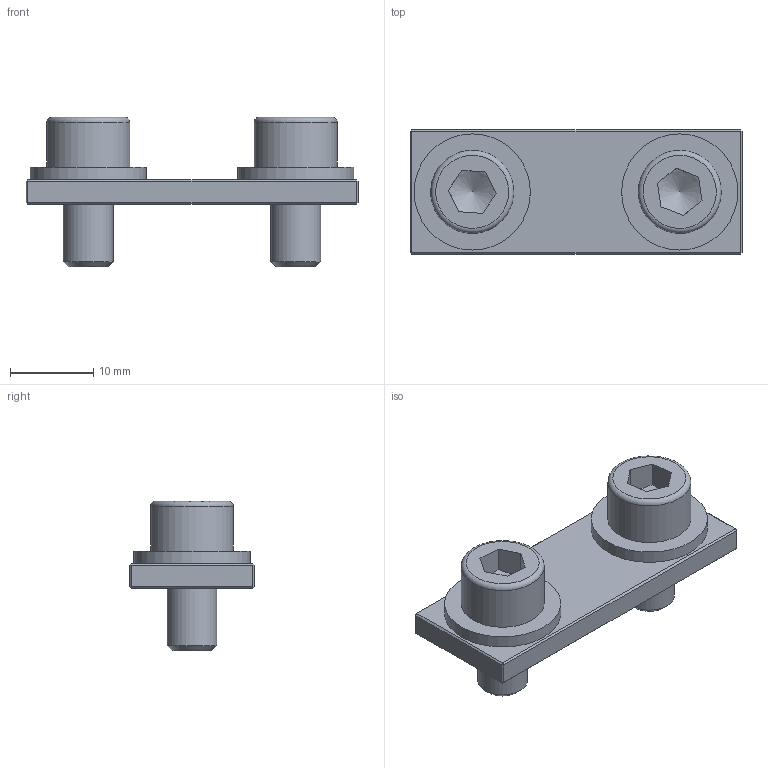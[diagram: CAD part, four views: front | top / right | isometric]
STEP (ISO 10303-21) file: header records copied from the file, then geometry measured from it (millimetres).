
FILE_DESCRIPTION((''),'2;1');
FILE_NAME('H:\3D-Entwürfe\Befestigungsteile\3D Modelle andere Formate\A\STEP\A16.stp','2010-03-02T12:31:55',('karin.hoppmann'),(''),'Autodesk Inventor 2009','Autodesk Inventor 2009','');
FILE_SCHEMA(('AUTOMOTIVE_DESIGN { 1 0 10303 214 1 1 1 1 }'));
Length unit declared in the file: millimetre
Products named in the file (4): A16; DIN 6796 6; DIN EN ISO 4762 M6 x 12
Assembly tree (5 placements, depth 2):
  A16
    A16
    DIN 6796 6  x2
    DIN EN ISO 4762 M6 x 12  x2
Bounding box: 40 x 15 x 18 mm (x, y, z)
Volume: 3569.1 mm3; surface area: 3432.7 mm2
Topology: 5 solids, 5 shells, 70 faces, 140 edges, 82 vertices
Faces by surface type: plane 48, cone 8, cylinder 8, bspline 4, torus 2
Full cylindrical faces by diameter (mm): 6 x2, 6.4 x2, 10 x2, 14 x2
Entity records: 1378 total; most frequent: CARTESIAN_POINT 290, DIRECTION 212, ORIENTED_EDGE 170, EDGE_CURVE 85, AXIS2_PLACEMENT_3D 76, EDGE_LOOP 72, VECTOR 60, LINE 60
